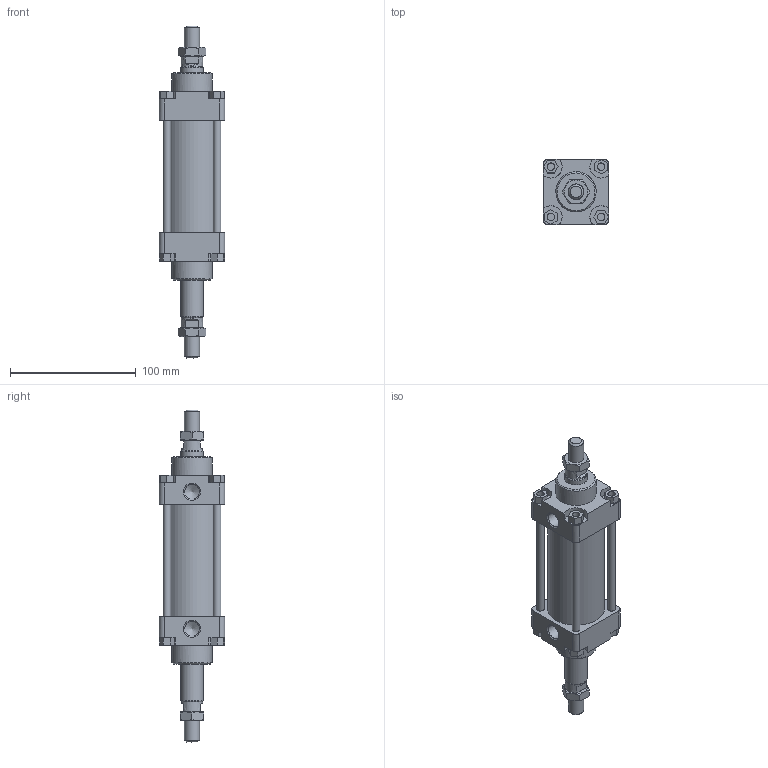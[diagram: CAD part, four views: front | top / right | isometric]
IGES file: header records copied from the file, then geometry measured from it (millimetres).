
Global section: file name: 130#_040_0025_02A; native system: Autodesk Inventor 2014; preprocessor: unknown; author: A. Manieri; date: 20161123.143707; units: millimetre
Bounding box: 52 x 52 x 264 mm (x, y, z)
Volume: 281243.9 mm3; surface area: 86322.3 mm2
Topology: 10 solids, 10 shells, 187 faces, 467 edges, 314 vertices
Faces by surface type: bspline 187
